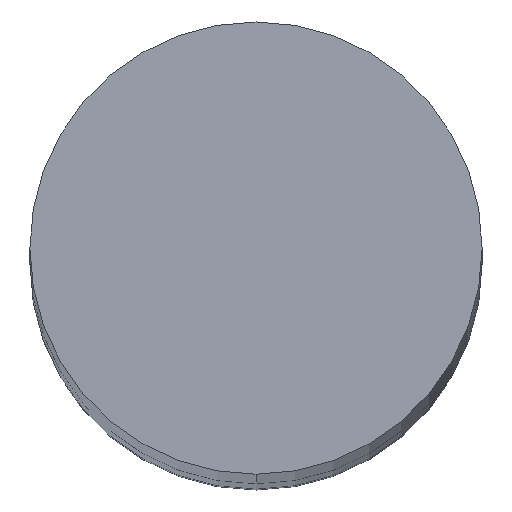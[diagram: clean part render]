
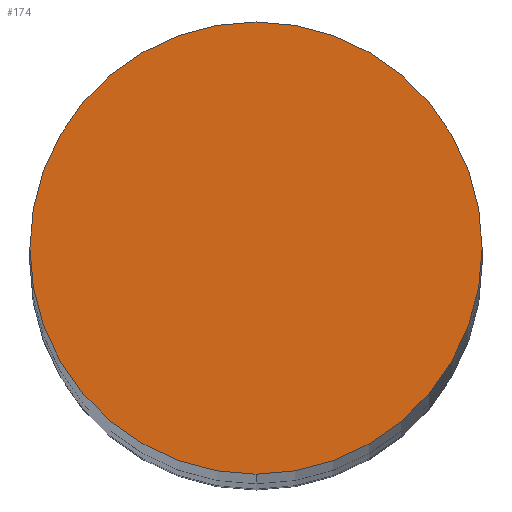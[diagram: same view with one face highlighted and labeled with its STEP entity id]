
A CAD part, top view. The second image highlights one B-rep face of the part: STEP entity #174.
In plain terms, the highlighted planar face has unit normal (0, 0, 1).
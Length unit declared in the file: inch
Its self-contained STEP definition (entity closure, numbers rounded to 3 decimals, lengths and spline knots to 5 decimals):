
#127=CARTESIAN_POINT('',(0.0,-0.0625,2.5));
#128=VERTEX_POINT('',#127);
#136=CARTESIAN_POINT('',(0.0,0.0625,2.5));
#137=VERTEX_POINT('',#136);
#144=CARTESIAN_POINT('',(0.0,0.0,2.5));
#145=DIRECTION('',(0.0,-0.0,-1.0));
#146=DIRECTION('',(0.0,1.0,-0.0));
#147=AXIS2_PLACEMENT_3D('',#144,#145,#146);
#148=CIRCLE('',#147,0.0625);
#149=EDGE_CURVE('no 1299',#137,#128,#148,.T.);
#159=CARTESIAN_POINT('',(0.0,0.0,2.5));
#160=DIRECTION('',(0.0,-0.0,-1.0));
#161=DIRECTION('',(0.0,1.0,-0.0));
#162=AXIS2_PLACEMENT_3D('',#159,#160,#161);
#163=CIRCLE('',#162,0.0625);
#164=EDGE_CURVE('no 1303',#128,#137,#163,.T.);
#165=ORIENTED_EDGE('',*,*,#164,.F.);
#166=ORIENTED_EDGE('',*,*,#149,.F.);
#167=EDGE_LOOP('',(#165,#166));
#168=FACE_OUTER_BOUND('',#167,.T.);
#169=CARTESIAN_POINT('',(0.0625,0.0,2.5));
#170=DIRECTION('',(0.0,0.0,1.0));
#171=DIRECTION('',(0.0,-1.0,0.0));
#172=AXIS2_PLACEMENT_3D('',#169,#170,#171);
#173=PLANE('',#172);
#174=ADVANCED_FACE('no 1392',(#168),#173,.T.);
